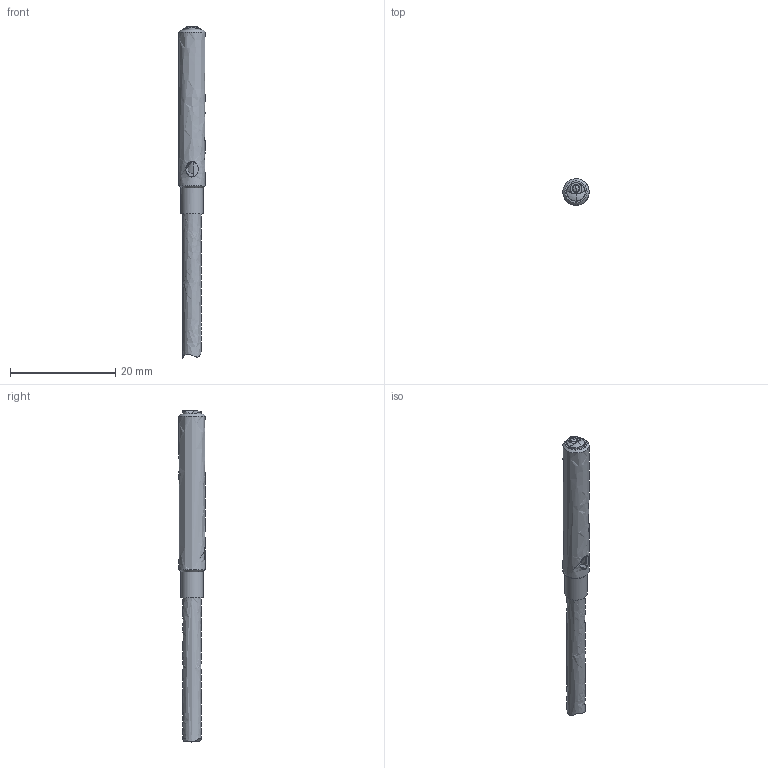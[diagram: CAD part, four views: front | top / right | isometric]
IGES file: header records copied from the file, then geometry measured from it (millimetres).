
Global section: file name: 153-13582_FT 05 R-PSL-K3; native system: Autodesk Inventor 2018; preprocessor: unknown; author: sgonin; date: 20190227.092455; units: millimetre
Bounding box: 5 x 5 x 63.18 mm (x, y, z)
Volume: 917.9 mm3; surface area: 895.6 mm2
Topology: 1 solids, 1 shells, 38 faces, 92 edges, 60 vertices
Faces by surface type: bspline 38
